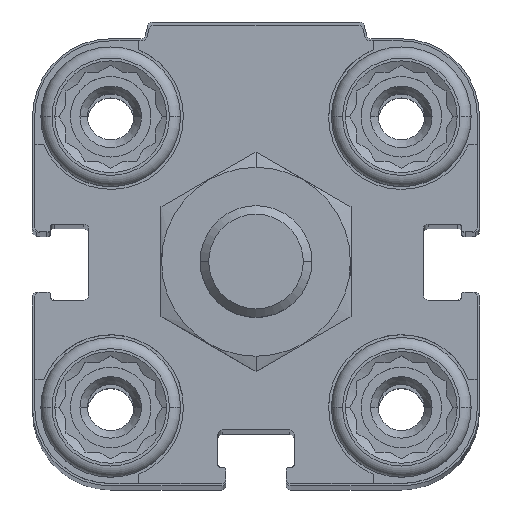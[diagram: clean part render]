
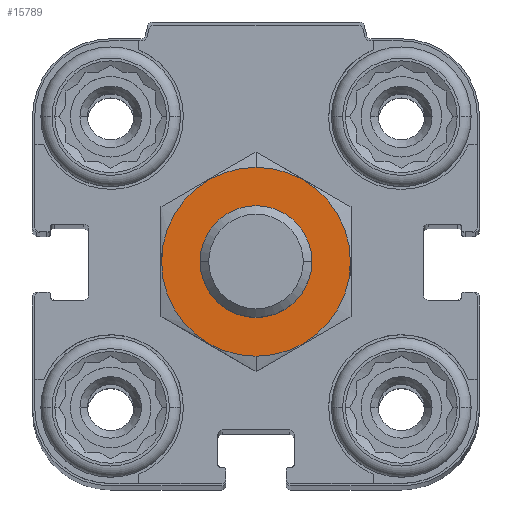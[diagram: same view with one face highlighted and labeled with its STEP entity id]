
A CAD part, top view. The second image highlights one B-rep face of the part: STEP entity #15789.
In plain terms, the highlighted planar face has unit normal (0, 0, 1).
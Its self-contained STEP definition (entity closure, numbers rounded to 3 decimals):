
#234 = CARTESIAN_POINT ( 'NONE',  ( 0., -5., 14.5 ) ) ;
#269 = DIRECTION ( 'NONE',  ( 0., 0., -1. ) ) ;
#911 = CARTESIAN_POINT ( 'NONE',  ( 0., -8.45, 14.5 ) ) ;
#2035 = ORIENTED_EDGE ( 'NONE', *, *, #12268, .F. ) ;
#4062 = CIRCLE ( 'NONE', #18323, 8.45 ) ;
#4236 = AXIS2_PLACEMENT_3D ( 'NONE', #8634, #19562, #13383 ) ;
#4918 = EDGE_CURVE ( 'NONE', #6230, #16317, #17068, .T. ) ;
#5369 = PLANE ( 'NONE',  #4236 ) ;
#6230 = VERTEX_POINT ( 'NONE', #911 ) ;
#6338 = CARTESIAN_POINT ( 'NONE',  ( 0., 0., 14.5 ) ) ;
#6463 = CIRCLE ( 'NONE', #9712, 5. ) ;
#6800 = EDGE_CURVE ( 'NONE', #12687, #12691, #10825, .T. ) ;
#7204 = FACE_OUTER_BOUND ( 'NONE', #8754, .T. ) ;
#8329 = AXIS2_PLACEMENT_3D ( 'NONE', #15587, #269, #12736 ) ;
#8465 = DIRECTION ( 'NONE',  ( 0., -1., 0. ) ) ;
#8634 = CARTESIAN_POINT ( 'NONE',  ( 0., 0., 14.5 ) ) ;
#8754 = EDGE_LOOP ( 'NONE', ( #14534, #2035 ) ) ;
#9712 = AXIS2_PLACEMENT_3D ( 'NONE', #16357, #16149, #8465 ) ;
#9879 = CARTESIAN_POINT ( 'NONE',  ( 0., 0., 14.5 ) ) ;
#10351 = FACE_BOUND ( 'NONE', #19781, .T. ) ;
#10538 = DIRECTION ( 'NONE',  ( 0., 0., -1. ) ) ;
#10825 = CIRCLE ( 'NONE', #19215, 5. ) ;
#12268 = EDGE_CURVE ( 'NONE', #16317, #6230, #4062, .T. ) ;
#12448 = CARTESIAN_POINT ( 'NONE',  ( 0., 8.45, 14.5 ) ) ;
#12687 = VERTEX_POINT ( 'NONE', #14125 ) ;
#12691 = VERTEX_POINT ( 'NONE', #234 ) ;
#12736 = DIRECTION ( 'NONE',  ( 0., -1., 0. ) ) ;
#13213 = DIRECTION ( 'NONE',  ( 0., 0., -1. ) ) ;
#13383 = DIRECTION ( 'NONE',  ( 0., -1., 0. ) ) ;
#13412 = DIRECTION ( 'NONE',  ( 0., -1., 0. ) ) ;
#14125 = CARTESIAN_POINT ( 'NONE',  ( 0., 5., 14.5 ) ) ;
#14534 = ORIENTED_EDGE ( 'NONE', *, *, #4918, .F. ) ;
#15330 = ORIENTED_EDGE ( 'NONE', *, *, #17766, .T. ) ;
#15587 = CARTESIAN_POINT ( 'NONE',  ( 0., 0., 14.5 ) ) ;
#15660 = DIRECTION ( 'NONE',  ( 0., -1., 0. ) ) ;
#15789 = ADVANCED_FACE ( 'NONE', ( #7204, #10351 ), #5369, .F. ) ;
#15816 = ORIENTED_EDGE ( 'NONE', *, *, #6800, .T. ) ;
#16149 = DIRECTION ( 'NONE',  ( 0., 0., -1. ) ) ;
#16317 = VERTEX_POINT ( 'NONE', #12448 ) ;
#16357 = CARTESIAN_POINT ( 'NONE',  ( 0., 0., 14.5 ) ) ;
#17068 = CIRCLE ( 'NONE', #8329, 8.45 ) ;
#17766 = EDGE_CURVE ( 'NONE', #12691, #12687, #6463, .T. ) ;
#18323 = AXIS2_PLACEMENT_3D ( 'NONE', #9879, #13213, #13412 ) ;
#19215 = AXIS2_PLACEMENT_3D ( 'NONE', #6338, #10538, #15660 ) ;
#19562 = DIRECTION ( 'NONE',  ( 0., 0., -1. ) ) ;
#19781 = EDGE_LOOP ( 'NONE', ( #15816, #15330 ) ) ;
